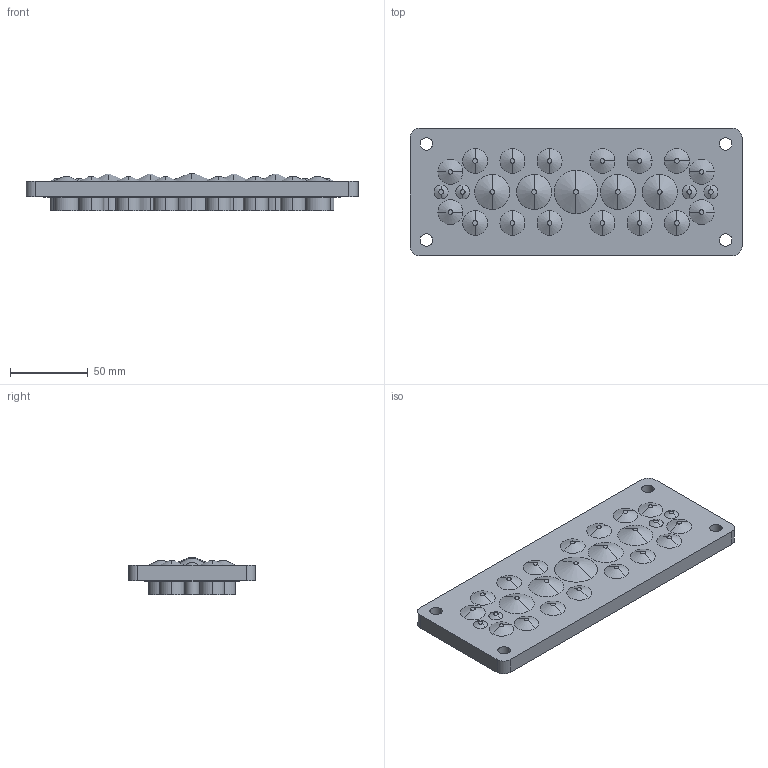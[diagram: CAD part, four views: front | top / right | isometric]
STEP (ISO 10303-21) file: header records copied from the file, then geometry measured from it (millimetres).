
FILE_DESCRIPTION (( 'STEP AP203' ), '1' );
FILE_NAME ('100238.STEP', '2012-12-11T04:57:01', ( 'Joni' ), ( 'Hewlett-Packard Company' ), 'SwSTEP 2.0', 'SolidWorks 2012', '' );
FILE_SCHEMA (( 'CONFIG_CONTROL_DESIGN' ));
Length unit declared in the file: millimetre
Products named in the file (1): 100238
Bounding box: 214 x 82 x 24 mm (x, y, z)
Volume: 222950.1 mm3; surface area: 59001.6 mm2
Topology: 1 solids, 5 shells, 292 faces, 606 edges, 400 vertices
Faces by surface type: cylinder 130, plane 96, cone 58, torus 8
Entity records: 7991 total; most frequent: DIRECTION 1576, CARTESIAN_POINT 1291, ORIENTED_EDGE 1196, AXIS2_PLACEMENT_3D 685, EDGE_CURVE 598, VERTEX_POINT 400, CIRCLE 392, EDGE_LOOP 384
